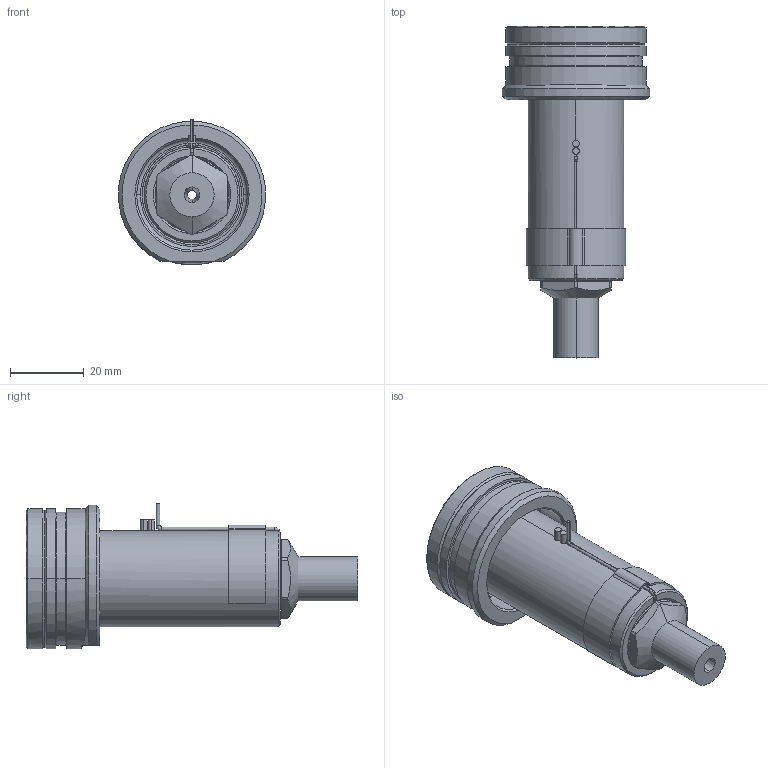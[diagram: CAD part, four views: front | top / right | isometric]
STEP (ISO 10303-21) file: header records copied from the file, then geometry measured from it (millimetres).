
FILE_DESCRIPTION((''),'2;1');
FILE_NAME('EO08_VG-FBE_STD_060_SW','2024-02-19T13:53:32',('sundharh'),(''),'CREO PARAMETRIC BY PTC INC, 2023154','CREO PARAMETRIC BY PTC INC, 2023154','');
FILE_SCHEMA(('CONFIG_CONTROL_DESIGN'));
Length unit declared in the file: millimetre
Products named in the file (1): EO08_VG-FBE_STD_060_SW
Bounding box: 39.88 x 90 x 39.52 mm (x, y, z)
Volume: 45720.2 mm3; surface area: 15401.4 mm2
Topology: 1 solids, 1 shells, 204 faces, 498 edges, 301 vertices
Faces by surface type: cylinder 72, plane 46, cone 43, torus 29, bspline 12, sphere 2
Entity records: 7319 total; most frequent: CARTESIAN_POINT 2419, DIRECTION 1099, ORIENTED_EDGE 988, EDGE_CURVE 494, AXIS2_PLACEMENT_3D 462, VERTEX_POINT 301, CIRCLE 270, EDGE_LOOP 221
